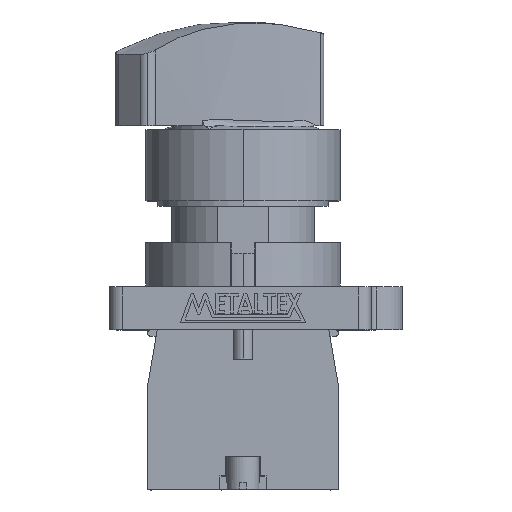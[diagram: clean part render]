
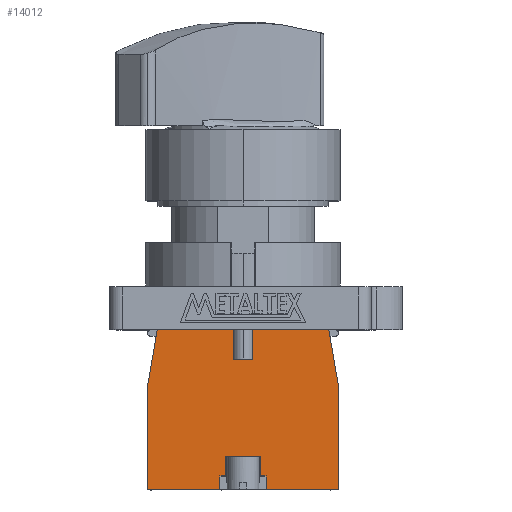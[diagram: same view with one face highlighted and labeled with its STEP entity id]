
A CAD part, top view. The second image highlights one B-rep face of the part: STEP entity #14012.
In plain terms, the highlighted planar face has unit normal (0, 0, 1).
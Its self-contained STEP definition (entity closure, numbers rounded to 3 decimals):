
#235 = PLANE ( 'NONE',  #3998 ) ;
#236 = CARTESIAN_POINT ( 'NONE',  ( 0., 0., 7.45 ) ) ;
#237 = DIRECTION ( 'NONE',  ( 0., 0., 1. ) ) ;
#238 = DIRECTION ( 'NONE',  ( 1., 0., 0. ) ) ;
#2840 = EDGE_CURVE ( 'NONE', #9612, #9831, #7513, .T. ) ;
#2845 = EDGE_CURVE ( 'NONE', #9900, #9816, #7528, .T. ) ;
#2852 = EDGE_CURVE ( 'NONE', #9966, #9517, #7549, .T. ) ;
#3267 = EDGE_CURVE ( 'NONE', #9900, #9987, #5122, .T. ) ;
#3268 = EDGE_CURVE ( 'NONE', #9532, #9339, #5125, .T. ) ;
#3269 = EDGE_CURVE ( 'NONE', #9345, #9339, #5128, .T. ) ;
#3270 = EDGE_CURVE ( 'NONE', #9345, #9612, #5131, .T. ) ;
#3271 = EDGE_CURVE ( 'NONE', #9336, #9831, #5134, .T. ) ;
#3272 = EDGE_CURVE ( 'NONE', #9335, #9336, #5137, .T. ) ;
#3273 = EDGE_CURVE ( 'NONE', #9519, #9335, #5140, .T. ) ;
#3274 = EDGE_CURVE ( 'NONE', #9816, #9515, #5143, .T. ) ;
#3275 = EDGE_CURVE ( 'NONE', #9926, #9966, #5146, .T. ) ;
#3279 = EDGE_CURVE ( 'NONE', #9625, #9946, #5158, .T. ) ;
#3998 = AXIS2_PLACEMENT_3D ( 'NONE', #236, #237, #238 ) ;
#4002 = FACE_OUTER_BOUND ( 'NONE', #7764, .T. ) ;
#4638 = EDGE_CURVE ( 'NONE', #9945, #9987, #5380, .T. ) ;
#4644 = EDGE_CURVE ( 'NONE', #9515, #9926, #5392, .T. ) ;
#5122 = LINE ( 'NONE', #5123, #9199 ) ;
#5123 = CARTESIAN_POINT ( 'NONE',  ( 1.5, 19.6, 7.45 ) ) ;
#5124 = DIRECTION ( 'NONE',  ( 0., 1., 0. ) ) ;
#5125 = LINE ( 'NONE', #5126, #8936 ) ;
#5126 = CARTESIAN_POINT ( 'NONE',  ( 3.5, 0., 7.45 ) ) ;
#5127 = DIRECTION ( 'NONE',  ( 0., 1., 0. ) ) ;
#5128 = LINE ( 'NONE', #5129, #9210 ) ;
#5129 = CARTESIAN_POINT ( 'NONE',  ( 0., 2., 7.45 ) ) ;
#5130 = DIRECTION ( 'NONE',  ( 1., 0., 0. ) ) ;
#5131 = LINE ( 'NONE', #5132, #8975 ) ;
#5132 = CARTESIAN_POINT ( 'NONE',  ( 2.6, 0., 7.45 ) ) ;
#5133 = DIRECTION ( 'NONE',  ( 0., 1., 0. ) ) ;
#5134 = LINE ( 'NONE', #5135, #8966 ) ;
#5135 = CARTESIAN_POINT ( 'NONE',  ( -2.6, 0., 7.45 ) ) ;
#5136 = DIRECTION ( 'NONE',  ( 0., 1., 0. ) ) ;
#5137 = LINE ( 'NONE', #5138, #8953 ) ;
#5138 = CARTESIAN_POINT ( 'NONE',  ( 0., 2., 7.45 ) ) ;
#5139 = DIRECTION ( 'NONE',  ( 1., 0., 0. ) ) ;
#5140 = LINE ( 'NONE', #5141, #9123 ) ;
#5141 = CARTESIAN_POINT ( 'NONE',  ( -3.5, 0., 7.45 ) ) ;
#5142 = DIRECTION ( 'NONE',  ( 0., 1., 0. ) ) ;
#5143 = LINE ( 'NONE', #5144, #9224 ) ;
#5144 = CARTESIAN_POINT ( 'NONE',  ( -1.5, 19.6, 7.45 ) ) ;
#5145 = DIRECTION ( 'NONE',  ( 0., 1., 0. ) ) ;
#5146 = LINE ( 'NONE', #5147, #9147 ) ;
#5147 = CARTESIAN_POINT ( 'NONE',  ( -13., 24.2, 7.45 ) ) ;
#5148 = DIRECTION ( 'NONE',  ( -0.17, -0.985, 0. ) ) ;
#5158 = LINE ( 'NONE', #5159, #9186 ) ;
#5159 = CARTESIAN_POINT ( 'NONE',  ( 14.5, 0., 7.45 ) ) ;
#5160 = DIRECTION ( 'NONE',  ( 0., 1., 0. ) ) ;
#5380 = LINE ( 'NONE', #5381, #9291 ) ;
#5381 = CARTESIAN_POINT ( 'NONE',  ( 13., 24.2, 7.45 ) ) ;
#5382 = DIRECTION ( 'NONE',  ( -1., 0., 0. ) ) ;
#5392 = LINE ( 'NONE', #5393, #9285 ) ;
#5393 = CARTESIAN_POINT ( 'NONE',  ( 13., 24.2, 7.45 ) ) ;
#5394 = DIRECTION ( 'NONE',  ( -1., 0., 0. ) ) ;
#5431 = LINE ( 'NONE', #5432, #9251 ) ;
#5432 = CARTESIAN_POINT ( 'NONE',  ( -14.5, 0., 7.45 ) ) ;
#5433 = DIRECTION ( 'NONE',  ( 1., 0., 0. ) ) ;
#5440 = LINE ( 'NONE', #5441, #9244 ) ;
#5441 = CARTESIAN_POINT ( 'NONE',  ( -14.5, 0., 7.45 ) ) ;
#5442 = DIRECTION ( 'NONE',  ( 1., 0., 0. ) ) ;
#5568 = LINE ( 'NONE', #5569, #9148 ) ;
#5569 = CARTESIAN_POINT ( 'NONE',  ( 14.5, 15.5, 7.45 ) ) ;
#5570 = DIRECTION ( 'NONE',  ( -0.17, 0.985, 0. ) ) ;
#6019 = EDGE_CURVE ( 'NONE', #9517, #9519, #5431, .T. ) ;
#6022 = EDGE_CURVE ( 'NONE', #9532, #9625, #5440, .T. ) ;
#6042 = EDGE_CURVE ( 'NONE', #9946, #9945, #5568, .T. ) ;
#7114 = ORIENTED_EDGE ( 'NONE', *, *, #3275, .T. ) ;
#7115 = ORIENTED_EDGE ( 'NONE', *, *, #3274, .T. ) ;
#7116 = ORIENTED_EDGE ( 'NONE', *, *, #2852, .T. ) ;
#7117 = ORIENTED_EDGE ( 'NONE', *, *, #4644, .T. ) ;
#7118 = ORIENTED_EDGE ( 'NONE', *, *, #6019, .T. ) ;
#7119 = ORIENTED_EDGE ( 'NONE', *, *, #3273, .T. ) ;
#7120 = ORIENTED_EDGE ( 'NONE', *, *, #3271, .T. ) ;
#7121 = ORIENTED_EDGE ( 'NONE', *, *, #3272, .T. ) ;
#7122 = ORIENTED_EDGE ( 'NONE', *, *, #2840, .F. ) ;
#7123 = ORIENTED_EDGE ( 'NONE', *, *, #3270, .F. ) ;
#7124 = ORIENTED_EDGE ( 'NONE', *, *, #3268, .F. ) ;
#7125 = ORIENTED_EDGE ( 'NONE', *, *, #3269, .T. ) ;
#7126 = ORIENTED_EDGE ( 'NONE', *, *, #6022, .T. ) ;
#7127 = ORIENTED_EDGE ( 'NONE', *, *, #6042, .T. ) ;
#7128 = ORIENTED_EDGE ( 'NONE', *, *, #3279, .T. ) ;
#7129 = ORIENTED_EDGE ( 'NONE', *, *, #4638, .T. ) ;
#7130 = ORIENTED_EDGE ( 'NONE', *, *, #3267, .F. ) ;
#7132 = ORIENTED_EDGE ( 'NONE', *, *, #2845, .T. ) ;
#7513 = LINE ( 'NONE', #7514, #9200 ) ;
#7514 = CARTESIAN_POINT ( 'NONE',  ( 0., 5., 7.45 ) ) ;
#7515 = DIRECTION ( 'NONE',  ( -1., 0., 0. ) ) ;
#7528 = LINE ( 'NONE', #7529, #9196 ) ;
#7529 = CARTESIAN_POINT ( 'NONE',  ( 0., 19.6, 7.45 ) ) ;
#7530 = DIRECTION ( 'NONE',  ( -1., 0., 0. ) ) ;
#7549 = LINE ( 'NONE', #7550, #9230 ) ;
#7550 = CARTESIAN_POINT ( 'NONE',  ( -14.5, 15.5, 7.45 ) ) ;
#7551 = DIRECTION ( 'NONE',  ( 0., -1., 0. ) ) ;
#7764 = EDGE_LOOP ( 'NONE', ( #7115, #7117, #7114, #7116, #7118, #7119, #7121, #7120, #7122, #7123, #7125, #7124, #7126, #7128, #7127, #7129, #7130, #7132 ) ) ;
#8936 = VECTOR ( 'NONE', #5127, 1000. ) ;
#8953 = VECTOR ( 'NONE', #5139, 1000. ) ;
#8966 = VECTOR ( 'NONE', #5136, 1000. ) ;
#8975 = VECTOR ( 'NONE', #5133, 1000. ) ;
#9123 = VECTOR ( 'NONE', #5142, 1000. ) ;
#9147 = VECTOR ( 'NONE', #5148, 1000. ) ;
#9148 = VECTOR ( 'NONE', #5570, 1000. ) ;
#9186 = VECTOR ( 'NONE', #5160, 1000. ) ;
#9196 = VECTOR ( 'NONE', #7530, 1000. ) ;
#9199 = VECTOR ( 'NONE', #5124, 1000. ) ;
#9200 = VECTOR ( 'NONE', #7515, 1000. ) ;
#9210 = VECTOR ( 'NONE', #5130, 1000. ) ;
#9224 = VECTOR ( 'NONE', #5145, 1000. ) ;
#9230 = VECTOR ( 'NONE', #7551, 1000. ) ;
#9244 = VECTOR ( 'NONE', #5442, 1000. ) ;
#9251 = VECTOR ( 'NONE', #5433, 1000. ) ;
#9285 = VECTOR ( 'NONE', #5394, 1000. ) ;
#9291 = VECTOR ( 'NONE', #5382, 1000. ) ;
#9335 = VERTEX_POINT ( 'NONE', #11182 ) ;
#9336 = VERTEX_POINT ( 'NONE', #11183 ) ;
#9339 = VERTEX_POINT ( 'NONE', #11186 ) ;
#9345 = VERTEX_POINT ( 'NONE', #11192 ) ;
#9515 = VERTEX_POINT ( 'NONE', #11288 ) ;
#9517 = VERTEX_POINT ( 'NONE', #11290 ) ;
#9519 = VERTEX_POINT ( 'NONE', #11292 ) ;
#9532 = VERTEX_POINT ( 'NONE', #11305 ) ;
#9612 = VERTEX_POINT ( 'NONE', #11391 ) ;
#9625 = VERTEX_POINT ( 'NONE', #11404 ) ;
#9816 = VERTEX_POINT ( 'NONE', #11595 ) ;
#9831 = VERTEX_POINT ( 'NONE', #11610 ) ;
#9900 = VERTEX_POINT ( 'NONE', #11679 ) ;
#9926 = VERTEX_POINT ( 'NONE', #11705 ) ;
#9945 = VERTEX_POINT ( 'NONE', #11724 ) ;
#9946 = VERTEX_POINT ( 'NONE', #11725 ) ;
#9966 = VERTEX_POINT ( 'NONE', #11745 ) ;
#9987 = VERTEX_POINT ( 'NONE', #11766 ) ;
#11182 = CARTESIAN_POINT ( 'NONE',  ( -3.5, 2., 7.45 ) ) ;
#11183 = CARTESIAN_POINT ( 'NONE',  ( -2.6, 2., 7.45 ) ) ;
#11186 = CARTESIAN_POINT ( 'NONE',  ( 3.5, 2., 7.45 ) ) ;
#11192 = CARTESIAN_POINT ( 'NONE',  ( 2.6, 2., 7.45 ) ) ;
#11288 = CARTESIAN_POINT ( 'NONE',  ( -1.5, 24.2, 7.45 ) ) ;
#11290 = CARTESIAN_POINT ( 'NONE',  ( -14.5, 0., 7.45 ) ) ;
#11292 = CARTESIAN_POINT ( 'NONE',  ( -3.5, 0., 7.45 ) ) ;
#11305 = CARTESIAN_POINT ( 'NONE',  ( 3.5, 0., 7.45 ) ) ;
#11391 = CARTESIAN_POINT ( 'NONE',  ( 2.6, 5., 7.45 ) ) ;
#11404 = CARTESIAN_POINT ( 'NONE',  ( 14.5, 0., 7.45 ) ) ;
#11595 = CARTESIAN_POINT ( 'NONE',  ( -1.5, 19.6, 7.45 ) ) ;
#11610 = CARTESIAN_POINT ( 'NONE',  ( -2.6, 5., 7.45 ) ) ;
#11679 = CARTESIAN_POINT ( 'NONE',  ( 1.5, 19.6, 7.45 ) ) ;
#11705 = CARTESIAN_POINT ( 'NONE',  ( -13., 24.2, 7.45 ) ) ;
#11724 = CARTESIAN_POINT ( 'NONE',  ( 13., 24.2, 7.45 ) ) ;
#11725 = CARTESIAN_POINT ( 'NONE',  ( 14.5, 15.5, 7.45 ) ) ;
#11745 = CARTESIAN_POINT ( 'NONE',  ( -14.5, 15.5, 7.45 ) ) ;
#11766 = CARTESIAN_POINT ( 'NONE',  ( 1.5, 24.2, 7.45 ) ) ;
#14012 = ADVANCED_FACE ( 'NONE', ( #4002 ), #235, .T. ) ;
